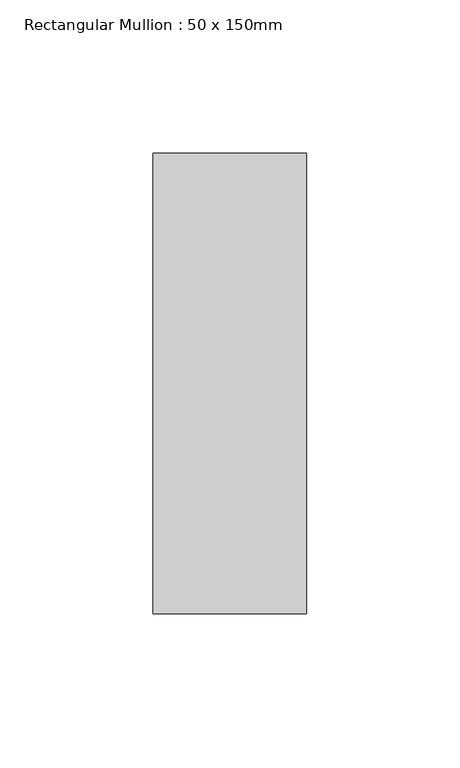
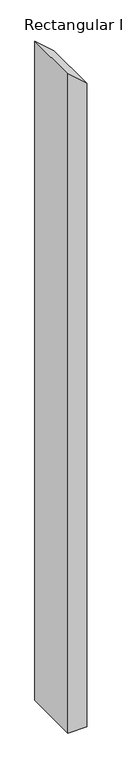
"""IFC4 building model written with IfcOpenShell, lengths in millimetres: member geometry, Rectangular Mullion : 50 x 150mm."""

from ifc_helpers import new_model, si_unit, frame, origin, place, context, project, spatial, polyline, outline, extrude, source, transform, mapped, element, save


def rectangular_mullion_50_x_150mm_87cecddb(model_context):
    return source(origin(), model_context, "Body", "SweptSolid", [
        extrude(outline(polyline([(-88.415239, 25.0), (-44.5773716, -25.0), (-1876.1556168, -25.0), (-1876.1556168, 25.0), (-88.415239, 25.0)])), frame((0.0, -75.0, 0.0), z_axis=(0.0, 1.0, 0.0), x_axis=(0.0, 0.0, 1.0)), (0.0, 0.0, 1.0), 150.0),
    ])


if __name__ == "__main__":
    model = new_model("IFC4")
    model_context = context("Model", 3, world=origin())
    ifc_project = project(units=[si_unit("LENGTHUNIT", "METRE", prefix="MILLI")], contexts=[model_context])
    site = spatial("IfcSite", under=ifc_project)
    building = spatial("IfcBuilding", under=site)
    placement = place(None, origin())
    rectangular_mullion_50_x_150mm_shape = rectangular_mullion_50_x_150mm_87cecddb(model_context)
    element("IfcMember", 1, ObjectType="Rectangular Mullion : 50 x 150mm", at=placement, inside=building, context=model_context, shape_type="MappedRepresentation", body=[
        mapped(rectangular_mullion_50_x_150mm_shape, transform((0.0, 0.0, 0.0), x_axis=(1.0, 0.0, 0.0), y_axis=(0.0, 1.0, 0.0), z_axis=(0.0, 0.0, 1.0))),
    ])
    save(model, "model.ifc")
